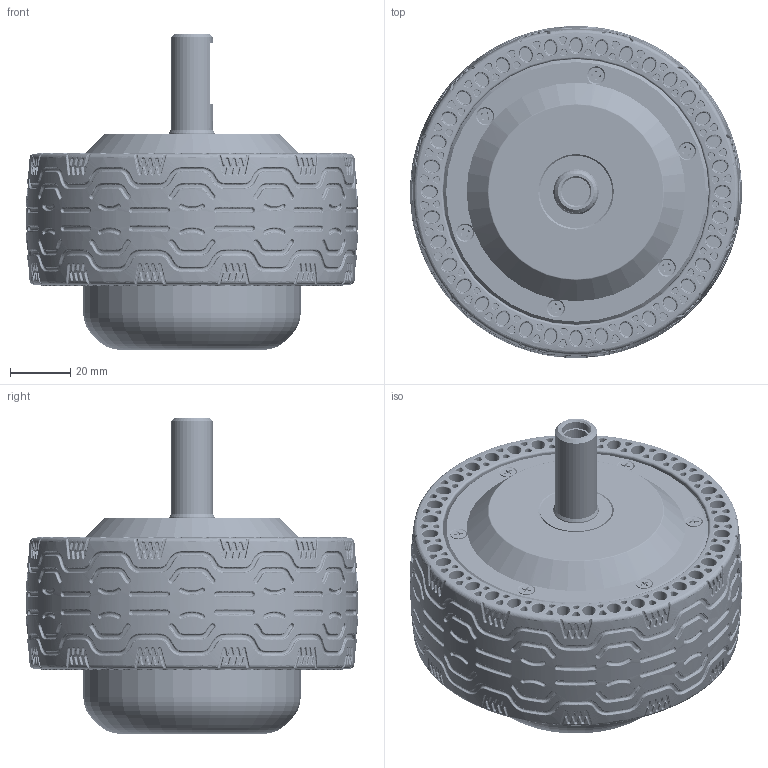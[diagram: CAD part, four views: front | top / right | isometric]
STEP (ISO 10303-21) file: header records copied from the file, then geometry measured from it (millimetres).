
FILE_DESCRIPTION(/* description */ ('STEP AP214'),/* implementation_level */ '2;1');
FILE_NAME(/* name */ 'DDSM350.step',/* time_stamp */ '2026-07-30T16:13:39+08:00',/* author */ (''),/* organization */ (''),/* preprocessor_version */ 'ST-DEVELOPER v20.1',/* originating_system */ 'Autodesk Translation Framework v15.8.0.0',/* authorisation */ '');
FILE_SCHEMA (('AUTOMOTIVE_DESIGN { 1 0 10303 214 3 1 1 }'));
Products named in the file (14): 4.5´ç3DÍ¼-°²ÆÕË¹; ÉÏ¸Ç×Ü³É£¨Ô
ìÐÍ£©; ×ª×Ó£¨ÔìÐÍ£
©2; 0354-00011 ×ª×ÓÍâ¿Ç n
ew; ¶¨×Ó(ÔìÐÍ£©; 4.5´çÖáÐÄ; 4.5´çÏÂ¸Ç; 0044-01166 ÉÏ¸Ç new3; ÓÍ·â; 0004-02191 ÏÂ¸Ç8 Ìú¿Ç; ÃÜ·âÈ¦2; 110x45-B_110mm; ÃÜ·âÈ¦; cross recessed countersunk head screws gb1 1(GB_CROSS_SCREWS_TYPE4 M3
X12-10.35  H type-N)
Assembly tree (25 placements, depth 3):
  4.5´ç3DÍ¼-°²ÆÕË¹
    ÉÏ¸Ç×Ü³É£¨Ô
ìÐÍ£©
      ÃÜ·âÈ¦
    ×ª×Ó£¨ÔìÐÍ£
©2
      0354-00011 ×ª×ÓÍâ¿Ç n
ew
    ¶¨×Ó(ÔìÐÍ£©
      4.5´çÖáÐÄ
    cross recessed countersunk head screws gb1 1(GB_CROSS_SCREWS_TYPE4 M3
X12-10.35  H type-N)  x12
    4.5´çÏÂ¸Ç
    0044-01166 ÉÏ¸Ç new3
    ÓÍ·â
    0004-02191 ÏÂ¸Ç8 Ìú¿Ç
    ÃÜ·âÈ¦2
    110x45-B_110mm
    ÃÜ·âÈ¦
Bounding box: 109.98 x 109.96 x 104.5 mm (x, y, z)
Volume: 246832.1 mm3; surface area: 124188.1 mm2
Topology: 23 solids, 23 shells, 8721 faces, 20162 edges, 11567 vertices
Faces by surface type: bspline 7171, plane 836, cylinder 469, cone 199, torus 46
Full cylindrical faces by diameter (mm): 2.5 x6, 3 x12, 3.4 x15, 5.2 x12, 8 x1, 9.3 x1, 12.6 x1, 14 x1, 15 x3, 21 x1, 22.6 x1, 24 x2, 25 x1, 28 x1, 32 x1, 68 x1, 68.5 x3, 69.6 x2, 70 x3, 71.7 x2, 72 x3, 73.3 x3, 83.3 x2, 84 x2, 88 x2
Entity records: 918101 total; most frequent: CARTESIAN_POINT 761498, ORIENTED_EDGE 38586, DIRECTION 21627, EDGE_CURVE 19293, VERTEX_POINT 11137, AXIS2_PLACEMENT_3D 9701, EDGE_LOOP 8824, B_SPLINE_CURVE_WITH_KNOTS 8706
